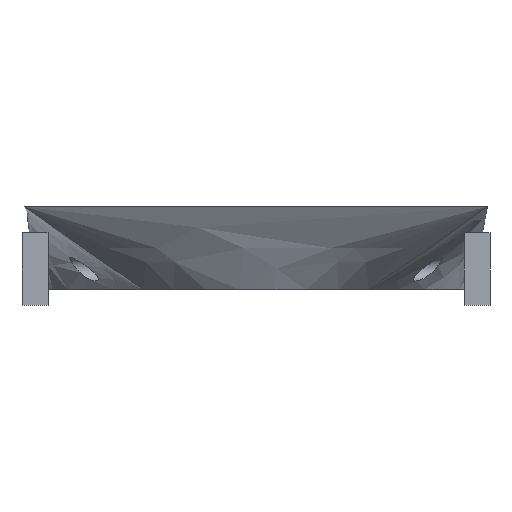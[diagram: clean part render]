
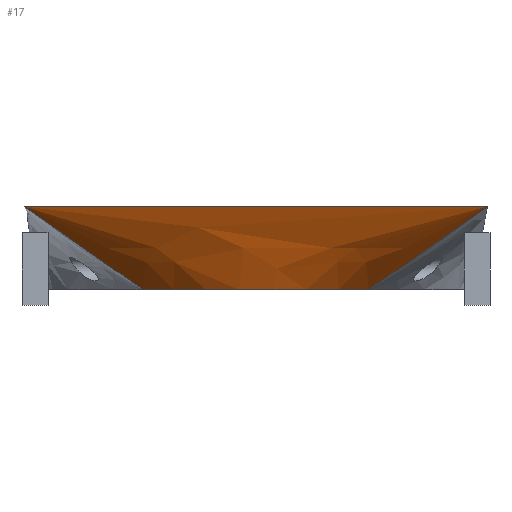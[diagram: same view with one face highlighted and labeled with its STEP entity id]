
A CAD part, front view. The second image highlights one B-rep face of the part: STEP entity #17.
In plain terms, the highlighted free-form (B-spline) face has degree [8, 1] with [9, 2] control points.
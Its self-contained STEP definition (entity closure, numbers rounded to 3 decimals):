
#17 = ADVANCED_FACE('',(#18),#32,.F.);
#18 = FACE_BOUND('',#19,.F.);
#19 = EDGE_LOOP('',(#20,#69,#110,#138));
#20 = ORIENTED_EDGE('',*,*,#21,.T.);
#21 = EDGE_CURVE('',#22,#24,#26,.T.);
#22 = VERTEX_POINT('',#23);
#23 = CARTESIAN_POINT('',(-44.5,-50.,52.));
#24 = VERTEX_POINT('',#25);
#25 = CARTESIAN_POINT('',(44.5,-50.,52.));
#26 = SURFACE_CURVE('',#27,(#31,#57),.PCURVE_S1.);
#27 = LINE('',#28,#29);
#28 = CARTESIAN_POINT('',(-44.5,-50.,52.));
#29 = VECTOR('',#30,1.);
#30 = DIRECTION('',(1.,0.,0.));
#31 = PCURVE('',#32,#51);
#32 = B_SPLINE_SURFACE_WITH_KNOTS('',8,1,(
    (#33,#34)
    ,(#35,#36)
    ,(#37,#38)
    ,(#39,#40)
    ,(#41,#42)
    ,(#43,#44)
    ,(#45,#46)
    ,(#47,#48)
    ,(#49,#50)),.UNSPECIFIED.,.F.,.F.,.F.,(9,9),(2,2),(0.,89.),(0.,1.),
  .PIECEWISE_BEZIER_KNOTS.);
#33 = CARTESIAN_POINT('',(-44.5,-50.,52.));
#34 = CARTESIAN_POINT('',(-21.709,-35.369,36.));
#35 = CARTESIAN_POINT('',(-33.375,-50.,52.));
#36 = CARTESIAN_POINT('',(-16.842,-38.357,36.));
#37 = CARTESIAN_POINT('',(-22.25,-50.,52.));
#38 = CARTESIAN_POINT('',(-11.504,-40.579,36.
    ));
#39 = CARTESIAN_POINT('',(-11.125,-50.,52.));
#40 = CARTESIAN_POINT('',(-5.837,-41.949,
    36.));
#41 = CARTESIAN_POINT('',(0.,-50.,52.));
#42 = CARTESIAN_POINT('',(0.,-42.412,
    36.));
#43 = CARTESIAN_POINT('',(11.125,-50.,52.));
#44 = CARTESIAN_POINT('',(5.837,-41.949,36.
    ));
#45 = CARTESIAN_POINT('',(22.25,-50.,52.));
#46 = CARTESIAN_POINT('',(11.504,-40.579,
    36.));
#47 = CARTESIAN_POINT('',(33.375,-50.,52.));
#48 = CARTESIAN_POINT('',(16.842,-38.357,36.));
#49 = CARTESIAN_POINT('',(44.5,-50.,52.));
#50 = CARTESIAN_POINT('',(21.709,-35.369,36.));
#51 = DEFINITIONAL_REPRESENTATION('',(#52),#56);
#52 = LINE('',#53,#54);
#53 = CARTESIAN_POINT('',(0.,0.));
#54 = VECTOR('',#55,1.);
#55 = DIRECTION('',(1.,0.));
#56 = ( GEOMETRIC_REPRESENTATION_CONTEXT(2) 
PARAMETRIC_REPRESENTATION_CONTEXT() REPRESENTATION_CONTEXT('2D SPACE',''
  ) );
#57 = PCURVE('',#58,#63);
#58 = PLANE('',#59);
#59 = AXIS2_PLACEMENT_3D('',#60,#61,#62);
#60 = CARTESIAN_POINT('',(-44.5,-50.,52.));
#61 = DIRECTION('',(0.,0.,-1.));
#62 = DIRECTION('',(0.523,0.852,0.));
#63 = DEFINITIONAL_REPRESENTATION('',(#64),#68);
#64 = LINE('',#65,#66);
#65 = CARTESIAN_POINT('',(0.,0.));
#66 = VECTOR('',#67,1.);
#67 = DIRECTION('',(0.523,0.852));
#68 = ( GEOMETRIC_REPRESENTATION_CONTEXT(2) 
PARAMETRIC_REPRESENTATION_CONTEXT() REPRESENTATION_CONTEXT('2D SPACE',''
  ) );
#69 = ORIENTED_EDGE('',*,*,#70,.T.);
#70 = EDGE_CURVE('',#24,#71,#73,.T.);
#71 = VERTEX_POINT('',#72);
#72 = CARTESIAN_POINT('',(21.709,-35.369,36.));
#73 = SURFACE_CURVE('',#74,(#77,#84),.PCURVE_S1.);
#74 = B_SPLINE_CURVE_WITH_KNOTS('',1,(#75,#76),.UNSPECIFIED.,.F.,.F.,(2,
    2),(0.,1.),.PIECEWISE_BEZIER_KNOTS.);
#75 = CARTESIAN_POINT('',(44.5,-50.,52.));
#76 = CARTESIAN_POINT('',(21.709,-35.369,36.));
#77 = PCURVE('',#32,#78);
#78 = DEFINITIONAL_REPRESENTATION('',(#79),#83);
#79 = LINE('',#80,#81);
#80 = CARTESIAN_POINT('',(89.,0.));
#81 = VECTOR('',#82,1.);
#82 = DIRECTION('',(0.,1.));
#83 = ( GEOMETRIC_REPRESENTATION_CONTEXT(2) 
PARAMETRIC_REPRESENTATION_CONTEXT() REPRESENTATION_CONTEXT('2D SPACE',''
  ) );
#84 = PCURVE('',#85,#104);
#85 = B_SPLINE_SURFACE_WITH_KNOTS('',8,1,(
    (#86,#87)
    ,(#88,#89)
    ,(#90,#91)
    ,(#92,#93)
    ,(#94,#95)
    ,(#96,#97)
    ,(#98,#99)
    ,(#100,#101)
    ,(#102,#103
    )),.UNSPECIFIED.,.F.,.F.,.F.,(9,9),(2,2),(0.,72.5),(0.,1.),
  .PIECEWISE_BEZIER_KNOTS.);
#86 = CARTESIAN_POINT('',(44.5,-50.,52.));
#87 = CARTESIAN_POINT('',(21.709,-35.369,36.));
#88 = CARTESIAN_POINT('',(44.5,-40.938,52.));
#89 = CARTESIAN_POINT('',(26.22,-32.6,36.));
#90 = CARTESIAN_POINT('',(44.5,-31.875,52.));
#91 = CARTESIAN_POINT('',(30.327,-29.174,36.));
#92 = CARTESIAN_POINT('',(44.5,-22.813,52.));
#93 = CARTESIAN_POINT('',(33.919,-25.159,36.));
#94 = CARTESIAN_POINT('',(44.5,-13.75,52.));
#95 = CARTESIAN_POINT('',(36.898,-20.646,36.));
#96 = CARTESIAN_POINT('',(44.5,-4.688,52.));
#97 = CARTESIAN_POINT('',(39.186,-15.747,36.));
#98 = CARTESIAN_POINT('',(44.5,4.375,52.));
#99 = CARTESIAN_POINT('',(40.729,-10.586,36.));
#100 = CARTESIAN_POINT('',(44.5,13.438,52.));
#101 = CARTESIAN_POINT('',(41.5,-5.293,36.));
#102 = CARTESIAN_POINT('',(44.5,22.5,52.));
#103 = CARTESIAN_POINT('',(41.5,0.,36.));
#104 = DEFINITIONAL_REPRESENTATION('',(#105),#109);
#105 = LINE('',#106,#107);
#106 = CARTESIAN_POINT('',(0.,0.));
#107 = VECTOR('',#108,1.);
#108 = DIRECTION('',(0.,1.));
#109 = ( GEOMETRIC_REPRESENTATION_CONTEXT(2) 
PARAMETRIC_REPRESENTATION_CONTEXT() REPRESENTATION_CONTEXT('2D SPACE',''
  ) );
#110 = ORIENTED_EDGE('',*,*,#111,.F.);
#111 = EDGE_CURVE('',#112,#71,#114,.T.);
#112 = VERTEX_POINT('',#113);
#113 = CARTESIAN_POINT('',(-21.709,-35.369,36.));
#114 = SURFACE_CURVE('',#115,(#120,#126),.PCURVE_S1.);
#115 = CIRCLE('',#116,41.5);
#116 = AXIS2_PLACEMENT_3D('',#117,#118,#119);
#117 = CARTESIAN_POINT('',(0.,0.,36.));
#118 = DIRECTION('',(0.,0.,1.));
#119 = DIRECTION('',(1.,0.,0.));
#120 = PCURVE('',#32,#121);
#121 = DEFINITIONAL_REPRESENTATION('',(#122),#125);
#122 = B_SPLINE_CURVE_WITH_KNOTS('',1,(#123,#124),.UNSPECIFIED.,.F.,.F.,
  (2,2),(4.162,5.263),.PIECEWISE_BEZIER_KNOTS.);
#123 = CARTESIAN_POINT('',(0.,1.));
#124 = CARTESIAN_POINT('',(89.,1.));
#125 = ( GEOMETRIC_REPRESENTATION_CONTEXT(2) 
PARAMETRIC_REPRESENTATION_CONTEXT() REPRESENTATION_CONTEXT('2D SPACE',''
  ) );
#126 = PCURVE('',#127,#132);
#127 = PLANE('',#128);
#128 = AXIS2_PLACEMENT_3D('',#129,#130,#131);
#129 = CARTESIAN_POINT('',(0.,0.,36.));
#130 = DIRECTION('',(0.,0.,1.));
#131 = DIRECTION('',(1.,0.,0.));
#132 = DEFINITIONAL_REPRESENTATION('',(#133),#137);
#133 = CIRCLE('',#134,41.5);
#134 = AXIS2_PLACEMENT_2D('',#135,#136);
#135 = CARTESIAN_POINT('',(0.,0.));
#136 = DIRECTION('',(1.,0.));
#137 = ( GEOMETRIC_REPRESENTATION_CONTEXT(2) 
PARAMETRIC_REPRESENTATION_CONTEXT() REPRESENTATION_CONTEXT('2D SPACE',''
  ) );
#138 = ORIENTED_EDGE('',*,*,#139,.F.);
#139 = EDGE_CURVE('',#22,#112,#140,.T.);
#140 = SURFACE_CURVE('',#141,(#144,#151),.PCURVE_S1.);
#141 = B_SPLINE_CURVE_WITH_KNOTS('',1,(#142,#143),.UNSPECIFIED.,.F.,.F.,
  (2,2),(0.,1.),.PIECEWISE_BEZIER_KNOTS.);
#142 = CARTESIAN_POINT('',(-44.5,-50.,52.));
#143 = CARTESIAN_POINT('',(-21.709,-35.369,36.));
#144 = PCURVE('',#32,#145);
#145 = DEFINITIONAL_REPRESENTATION('',(#146),#150);
#146 = LINE('',#147,#148);
#147 = CARTESIAN_POINT('',(0.,0.));
#148 = VECTOR('',#149,1.);
#149 = DIRECTION('',(0.,1.));
#150 = ( GEOMETRIC_REPRESENTATION_CONTEXT(2) 
PARAMETRIC_REPRESENTATION_CONTEXT() REPRESENTATION_CONTEXT('2D SPACE',''
  ) );
#151 = PCURVE('',#152,#173);
#152 = B_SPLINE_SURFACE_WITH_KNOTS('',9,1,(
    (#153,#154)
    ,(#155,#156)
    ,(#157,#158)
    ,(#159,#160)
    ,(#161,#162)
    ,(#163,#164)
    ,(#165,#166)
    ,(#167,#168)
    ,(#169,#170)
    ,(#171,#172
    )),.UNSPECIFIED.,.F.,.F.,.F.,(10,10),(2,2),(0.,145.),(0.,1.),
  .PIECEWISE_BEZIER_KNOTS.);
#153 = CARTESIAN_POINT('',(-44.5,95.,52.));
#154 = CARTESIAN_POINT('',(-21.709,35.369,36.));
#155 = CARTESIAN_POINT('',(-44.5,78.889,52.));
#156 = CARTESIAN_POINT('',(-29.728,30.447,
    36.));
#157 = CARTESIAN_POINT('',(-44.5,62.778,52.));
#158 = CARTESIAN_POINT('',(-36.492,23.479,
    36.));
#159 = CARTESIAN_POINT('',(-44.5,46.667,52.));
#160 = CARTESIAN_POINT('',(-41.404,14.832,
    36.));
#161 = CARTESIAN_POINT('',(-44.5,30.556,52.));
#162 = CARTESIAN_POINT('',(-43.993,5.074,
    36.));
#163 = CARTESIAN_POINT('',(-44.5,14.444,52.));
#164 = CARTESIAN_POINT('',(-43.993,-5.074,
    36.));
#165 = CARTESIAN_POINT('',(-44.5,-1.667,52.));
#166 = CARTESIAN_POINT('',(-41.404,-14.832,
    36.));
#167 = CARTESIAN_POINT('',(-44.5,-17.778,52.));
#168 = CARTESIAN_POINT('',(-36.492,-23.479,
    36.));
#169 = CARTESIAN_POINT('',(-44.5,-33.889,52.));
#170 = CARTESIAN_POINT('',(-29.728,-30.447,36.));
#171 = CARTESIAN_POINT('',(-44.5,-50.,52.));
#172 = CARTESIAN_POINT('',(-21.709,-35.369,36.));
#173 = DEFINITIONAL_REPRESENTATION('',(#174),#178);
#174 = LINE('',#175,#176);
#175 = CARTESIAN_POINT('',(145.,0.));
#176 = VECTOR('',#177,1.);
#177 = DIRECTION('',(0.,1.));
#178 = ( GEOMETRIC_REPRESENTATION_CONTEXT(2) 
PARAMETRIC_REPRESENTATION_CONTEXT() REPRESENTATION_CONTEXT('2D SPACE',''
  ) );
